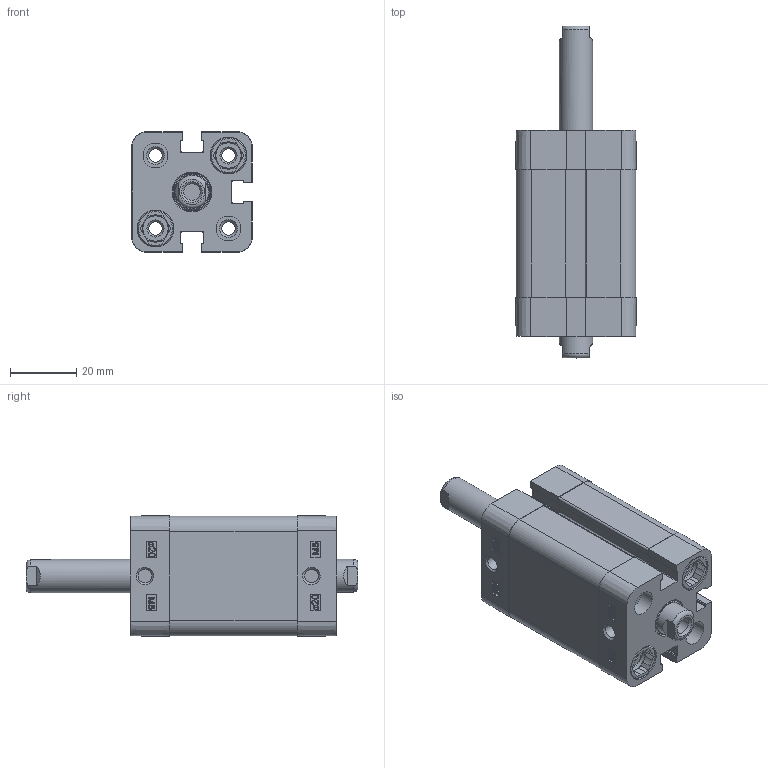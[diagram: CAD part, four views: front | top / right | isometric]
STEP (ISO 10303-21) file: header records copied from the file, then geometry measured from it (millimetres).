
FILE_DESCRIPTION(/* description */ ('Unknown'),/* implementation_level */ '2;1');
FILE_NAME(/* name */ 'ZBN 20_25',/* time_stamp */ '2025-01-27T13:35:22+01:00',/* author */ ('Unknown'),/* organization */ ('HAFNER Pneumatika Kft'),/* preprocessor_version */ 'ST-DEVELOPER v16.7',/* originating_system */ 'Solid Edge',/* authorisation */ 'Unknown');
FILE_SCHEMA (('AUTOMOTIVE_DESIGN {1 0 10303 214 3 1 1}'));
Length unit declared in the file: millimetre
Products named in the file (5): ZBN 20_25; Kit_1; Kit_2; Profilrohr; Kolbenstange
Assembly tree (5 placements, depth 2):
  ZBN 20_25
    Kit_1
    Kit_2
    Profilrohr
    Kolbenstange  x2
Bounding box: 36.3 x 100 x 36.3 mm (x, y, z)
Volume: 59705.9 mm3; surface area: 33475.3 mm2
Topology: 5 solids, 9 shells, 607 faces, 1619 edges, 1070 vertices
Faces by surface type: plane 292, cylinder 157, bspline 86, cone 56, torus 16
Full cylindrical faces by diameter (mm): 4.134 x10, 4.917 x4, 7.5 x4, 7.55 x4, 8 x8, 10 x2, 10.48 x2, 10.9 x4, 11.1 x4, 11.4 x2, 12 x2, 13.84 x2, 14 x2, 20 x3
Entity records: 21902 total; most frequent: CARTESIAN_POINT 4232, ORIENTED_EDGE 2860, DIRECTION 2646, EDGE_CURVE 1430, VERTEX_POINT 999, AXIS2_PLACEMENT_3D 903, LINE 840, VECTOR 840
